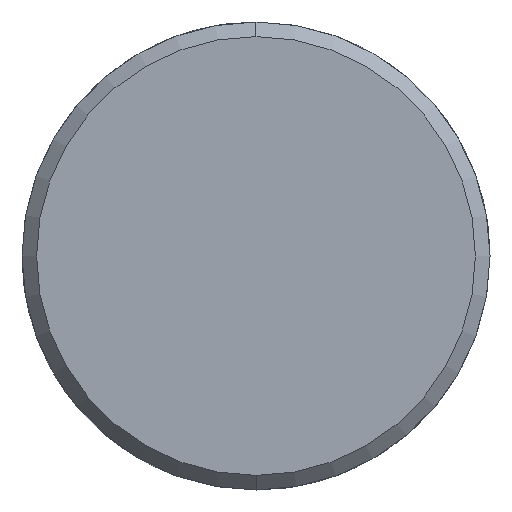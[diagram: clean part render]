
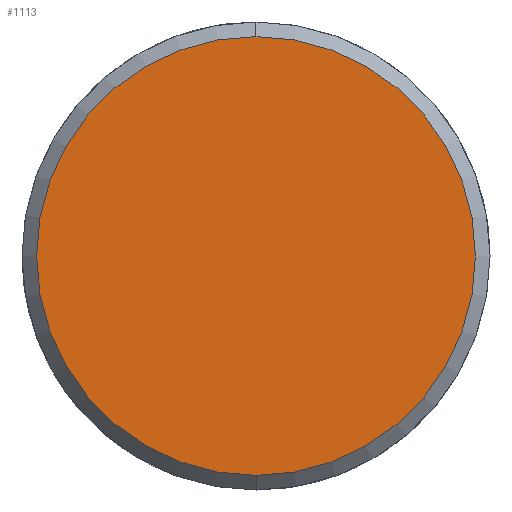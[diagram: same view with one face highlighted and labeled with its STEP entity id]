
A CAD part, left-side view. The second image highlights one B-rep face of the part: STEP entity #1113.
In plain terms, the highlighted planar face has unit normal (-1, 0, 0).
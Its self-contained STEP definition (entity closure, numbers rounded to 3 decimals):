
#1045=CARTESIAN_POINT('Vertex',(-6.,0.,-15.)) ;
#1048=CARTESIAN_POINT('Axis2P3D Location',(-6.,0.,0.)) ;
#1052=CARTESIAN_POINT('Vertex',(-6.,15.,0.)) ;
#1055=CARTESIAN_POINT('Axis2P3D Location',(-6.,0.,0.)) ;
#1059=CARTESIAN_POINT('Vertex',(-6.,0.,15.)) ;
#1081=CARTESIAN_POINT('Axis2P3D Location',(-6.,0.,0.)) ;
#1085=CARTESIAN_POINT('Vertex',(-6.,-15.,0.)) ;
#1088=CARTESIAN_POINT('Axis2P3D Location',(-6.,0.,0.)) ;
#1102=CARTESIAN_POINT('Axis2P3D Location',(-6.,0.,0.)) ;
#1049=DIRECTION('Axis2P3D Direction',(1.,0.,-0.)) ;
#1056=DIRECTION('Axis2P3D Direction',(1.,0.,-0.)) ;
#1082=DIRECTION('Axis2P3D Direction',(1.,0.,-0.)) ;
#1089=DIRECTION('Axis2P3D Direction',(1.,0.,-0.)) ;
#1103=DIRECTION('Axis2P3D Direction',(1.,0.,-0.)) ;
#1104=DIRECTION('Axis2P3D XDirection',(-0.,0.,-1.)) ;
#1050=AXIS2_PLACEMENT_3D('Circle Axis2P3D',#1048,#1049,$) ;
#1057=AXIS2_PLACEMENT_3D('Circle Axis2P3D',#1055,#1056,$) ;
#1083=AXIS2_PLACEMENT_3D('Circle Axis2P3D',#1081,#1082,$) ;
#1090=AXIS2_PLACEMENT_3D('Circle Axis2P3D',#1088,#1089,$) ;
#1105=AXIS2_PLACEMENT_3D('Plane Axis2P3D',#1102,#1103,#1104) ;
#1108=ORIENTED_EDGE('',*,*,#1054,.F.) ;
#1109=ORIENTED_EDGE('',*,*,#1092,.F.) ;
#1110=ORIENTED_EDGE('',*,*,#1087,.F.) ;
#1111=ORIENTED_EDGE('',*,*,#1061,.F.) ;
#1113=ADVANCED_FACE('351-20X96X160',(#1112),#1106,.F.) ;
#1051=CIRCLE('generated circle',#1050,15.) ;
#1058=CIRCLE('generated circle',#1057,15.) ;
#1084=CIRCLE('generated circle',#1083,15.) ;
#1091=CIRCLE('generated circle',#1090,15.) ;
#1054=EDGE_CURVE('',#1046,#1053,#1051,.T.) ;
#1061=EDGE_CURVE('',#1053,#1060,#1058,.T.) ;
#1087=EDGE_CURVE('',#1060,#1086,#1084,.T.) ;
#1092=EDGE_CURVE('',#1086,#1046,#1091,.T.) ;
#1107=EDGE_LOOP('',(#1108,#1109,#1110,#1111)) ;
#1112=FACE_OUTER_BOUND('',#1107,.T.) ;
#1106=PLANE('Plane',#1105) ;
#1046=VERTEX_POINT('',#1045) ;
#1053=VERTEX_POINT('',#1052) ;
#1060=VERTEX_POINT('',#1059) ;
#1086=VERTEX_POINT('',#1085) ;
